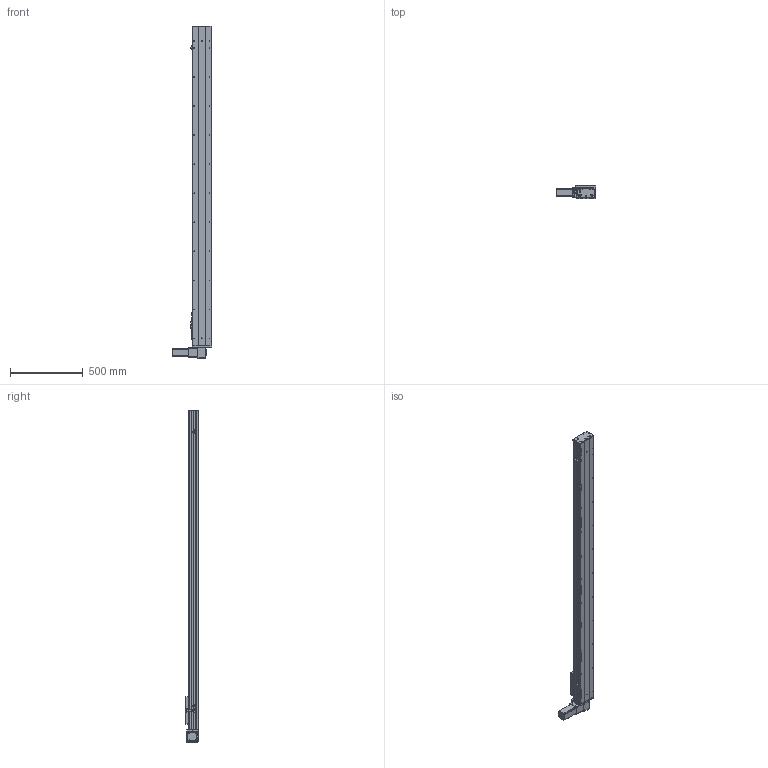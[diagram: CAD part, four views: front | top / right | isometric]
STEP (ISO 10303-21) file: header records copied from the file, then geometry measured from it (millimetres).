
FILE_DESCRIPTION (( 'STEP AP203' ), '1' );
FILE_NAME ('Y135CB-D90-S1900-BD-P400W.STEP', '2020-02-19T03:52:48', ( '微软用户' ), ( '微软中国' ), 'SwSTEP 2.0', 'SolidWorks 2017', '' );
FILE_SCHEMA (( 'CONFIG_CONTROL_DESIGN' ));
Length unit declared in the file: millimetre
Products named in the file (16): Y135C-陔俋离換覜結え-; 35CB---喘謫眊楊擘啣; 5C--俋欶; 0B-埴倛裔啣; C-雄赽釱--; 0B-源倛裔啣; Y10B--々湍喘謫眊--666; san松下电机400不带刹车----; 0B-薊粣ん眊; 5CB --掛极耜裔啣-; Y135CB-D90-S1900-BD-P400W; C-詩湍揤踡え-陔; 135CB--詩湍-CE; Y135CB-耜裔; Y100-135俋离換覜ん--; 135CB---遴掛极.-
Assembly tree (19 placements, depth 2):
  Y135CB-D90-S1900-BD-P400W
    Y135CB-耜裔
    135CB---遴掛极.-
    35CB---喘謫眊楊擘啣
    0B-埴倛裔啣
    0B-源倛裔啣
    san松下电机400不带刹车----
    5CB --掛极耜裔啣-  x2
    C-詩湍揤踡え-陔  x2
    135CB--詩湍-CE
    Y100-135俋离換覜ん--  x3
    Y135C-陔俋离換覜結え-
    5C--俋欶
    C-雄赽釱--
    Y10B--々湍喘謫眊--666
    0B-薊粣ん眊
Bounding box: 272 x 91 x 2288 mm (x, y, z)
Volume: 6723898.6 mm3; surface area: 2610819.3 mm2
Topology: 19 solids, 19 shells, 875 faces, 2356 edges, 1560 vertices
Faces by surface type: cylinder 444, plane 415, cone 16
Entity records: 27016 total; most frequent: DIRECTION 4504, CARTESIAN_POINT 4467, ORIENTED_EDGE 4188, EDGE_CURVE 2094, AXIS2_PLACEMENT_3D 1657, VERTEX_POINT 1388, LINE 1190, VECTOR 1190
